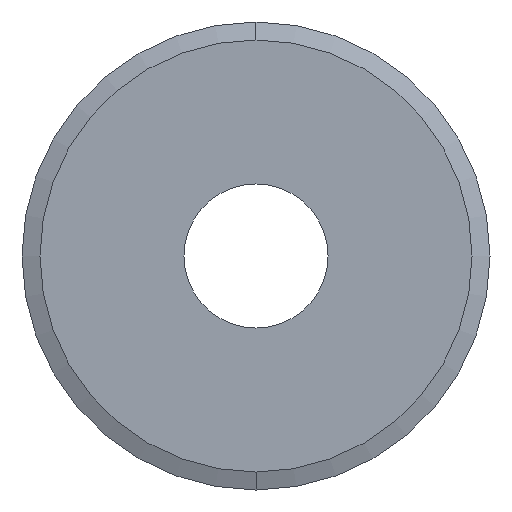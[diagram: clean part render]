
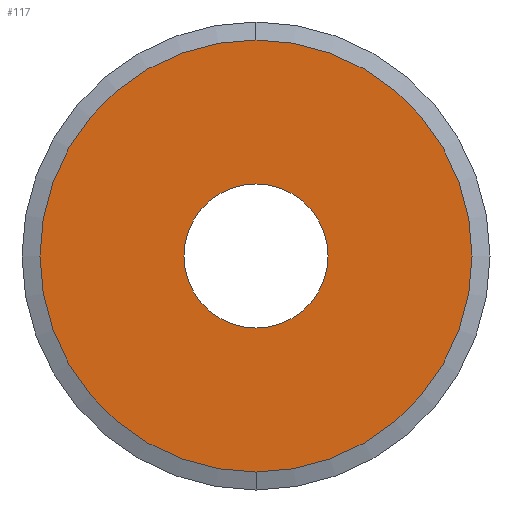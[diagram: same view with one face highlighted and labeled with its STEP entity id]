
A CAD part, left-side view. The second image highlights one B-rep face of the part: STEP entity #117.
In plain terms, the highlighted planar face has unit normal (-1, 0, 0).
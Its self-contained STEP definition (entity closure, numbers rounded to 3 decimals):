
#37 = AXIS2_PLACEMENT_3D ( 'NONE', #559, #441, #448 ) ;
#41 = EDGE_CURVE ( 'NONE', #745, #182, #842, .T. ) ;
#99 = DIRECTION ( 'NONE',  ( -1., 0., 0. ) ) ;
#109 = EDGE_LOOP ( 'NONE', ( #1154, #1515 ) ) ;
#117 = ADVANCED_FACE ( 'NONE', ( #1737, #722 ), #1011, .F. ) ;
#119 = DIRECTION ( 'NONE',  ( 0., 0., -1. ) ) ;
#152 = DIRECTION ( 'NONE',  ( 0., 0., -1. ) ) ;
#170 = CARTESIAN_POINT ( 'NONE',  ( 0., 0., 0. ) ) ;
#181 = DIRECTION ( 'NONE',  ( 1., 0., 0. ) ) ;
#182 = VERTEX_POINT ( 'NONE', #708 ) ;
#189 = CARTESIAN_POINT ( 'NONE',  ( 0., 0., 0. ) ) ;
#210 = AXIS2_PLACEMENT_3D ( 'NONE', #698, #741, #664 ) ;
#303 = CARTESIAN_POINT ( 'NONE',  ( 0., 0., 30. ) ) ;
#421 = DIRECTION ( 'NONE',  ( 1., 0., 0. ) ) ;
#440 = ORIENTED_EDGE ( 'NONE', *, *, #543, .T. ) ;
#441 = DIRECTION ( 'NONE',  ( -1., 0., 0. ) ) ;
#448 = DIRECTION ( 'NONE',  ( 0., 0., 1. ) ) ;
#543 = EDGE_CURVE ( 'NONE', #714, #701, #1078, .T. ) ;
#559 = CARTESIAN_POINT ( 'NONE',  ( 0., 0., 0. ) ) ;
#613 = AXIS2_PLACEMENT_3D ( 'NONE', #189, #181, #119 ) ;
#664 = DIRECTION ( 'NONE',  ( 0., 0., -1. ) ) ;
#689 = EDGE_CURVE ( 'NONE', #701, #714, #875, .T. ) ;
#698 = CARTESIAN_POINT ( 'NONE',  ( 0., 0., 0. ) ) ;
#701 = VERTEX_POINT ( 'NONE', #1492 ) ;
#708 = CARTESIAN_POINT ( 'NONE',  ( 0., 0., -30. ) ) ;
#714 = VERTEX_POINT ( 'NONE', #826 ) ;
#722 = FACE_OUTER_BOUND ( 'NONE', #109, .T. ) ;
#741 = DIRECTION ( 'NONE',  ( 1., 0., 0. ) ) ;
#745 = VERTEX_POINT ( 'NONE', #303 ) ;
#826 = CARTESIAN_POINT ( 'NONE',  ( 0., 0., 10. ) ) ;
#842 = CIRCLE ( 'NONE', #1401, 30. ) ;
#875 = CIRCLE ( 'NONE', #210, 10. ) ;
#900 = DIRECTION ( 'NONE',  ( 0., 0., 1. ) ) ;
#1011 = PLANE ( 'NONE',  #1185 ) ;
#1078 = CIRCLE ( 'NONE', #613, 10. ) ;
#1154 = ORIENTED_EDGE ( 'NONE', *, *, #41, .T. ) ;
#1185 = AXIS2_PLACEMENT_3D ( 'NONE', #170, #421, #152 ) ;
#1274 = CARTESIAN_POINT ( 'NONE',  ( 0., 0., 0. ) ) ;
#1302 = EDGE_LOOP ( 'NONE', ( #1471, #440 ) ) ;
#1378 = EDGE_CURVE ( 'NONE', #182, #745, #1395, .T. ) ;
#1395 = CIRCLE ( 'NONE', #37, 30. ) ;
#1401 = AXIS2_PLACEMENT_3D ( 'NONE', #1274, #99, #900 ) ;
#1471 = ORIENTED_EDGE ( 'NONE', *, *, #689, .T. ) ;
#1492 = CARTESIAN_POINT ( 'NONE',  ( 0., 0., -10. ) ) ;
#1515 = ORIENTED_EDGE ( 'NONE', *, *, #1378, .T. ) ;
#1737 = FACE_BOUND ( 'NONE', #1302, .T. ) ;
